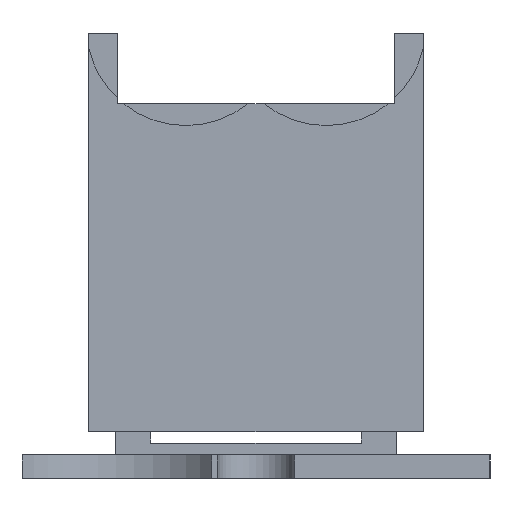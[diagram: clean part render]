
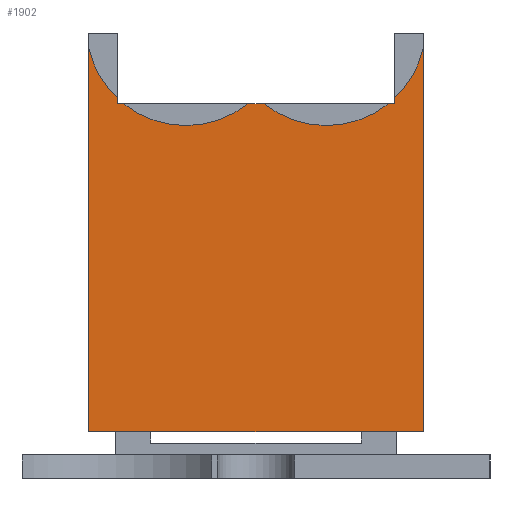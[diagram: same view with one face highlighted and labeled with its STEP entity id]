
A CAD part, left-side view. The second image highlights one B-rep face of the part: STEP entity #1902.
In plain terms, the highlighted planar face has unit normal (-1, 0, 0).
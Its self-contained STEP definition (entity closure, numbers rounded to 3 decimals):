
#1520 = VERTEX_POINT('',#1521);
#1521 = CARTESIAN_POINT('',(55.,14.3,4.));
#1529 = EDGE_CURVE('',#1530,#1520,#1532,.T.);
#1530 = VERTEX_POINT('',#1531);
#1531 = CARTESIAN_POINT('',(55.,-14.3,4.));
#1532 = LINE('',#1533,#1534);
#1533 = CARTESIAN_POINT('',(55.,-14.3,4.));
#1534 = VECTOR('',#1535,1.);
#1535 = DIRECTION('',(0.,1.,0.));
#1760 = EDGE_CURVE('',#1520,#1761,#1763,.T.);
#1761 = VERTEX_POINT('',#1762);
#1762 = CARTESIAN_POINT('',(55.,14.3,36.817));
#1763 = LINE('',#1764,#1765);
#1764 = CARTESIAN_POINT('',(55.,14.3,4.));
#1765 = VECTOR('',#1766,1.);
#1766 = DIRECTION('',(0.,0.,1.));
#1867 = EDGE_CURVE('',#1530,#1868,#1870,.T.);
#1868 = VERTEX_POINT('',#1869);
#1869 = CARTESIAN_POINT('',(55.,-14.3,36.817));
#1870 = LINE('',#1871,#1872);
#1871 = CARTESIAN_POINT('',(55.,-14.3,4.));
#1872 = VECTOR('',#1873,1.);
#1873 = DIRECTION('',(0.,0.,1.));
#1902 = ADVANCED_FACE('',(#1903),#1982,.F.);
#1903 = FACE_BOUND('',#1904,.F.);
#1904 = EDGE_LOOP('',(#1905,#1914,#1915,#1916,#1917,#1926,#1934,#1942,
    #1951,#1959,#1968,#1976));
#1905 = ORIENTED_EDGE('',*,*,#1906,.F.);
#1906 = EDGE_CURVE('',#1868,#1907,#1909,.T.);
#1907 = VERTEX_POINT('',#1908);
#1908 = CARTESIAN_POINT('',(55.,-11.8,32.436));
#1909 = CIRCLE('',#1910,8.5);
#1910 = AXIS2_PLACEMENT_3D('',#1911,#1912,#1913);
#1911 = CARTESIAN_POINT('',(55.,-6.,38.65));
#1912 = DIRECTION('',(1.,0.,-0.));
#1913 = DIRECTION('',(0.,0.,1.));
#1914 = ORIENTED_EDGE('',*,*,#1867,.F.);
#1915 = ORIENTED_EDGE('',*,*,#1529,.T.);
#1916 = ORIENTED_EDGE('',*,*,#1760,.T.);
#1917 = ORIENTED_EDGE('',*,*,#1918,.F.);
#1918 = EDGE_CURVE('',#1919,#1761,#1921,.T.);
#1919 = VERTEX_POINT('',#1920);
#1920 = CARTESIAN_POINT('',(55.,11.8,32.436));
#1921 = CIRCLE('',#1922,8.5);
#1922 = AXIS2_PLACEMENT_3D('',#1923,#1924,#1925);
#1923 = CARTESIAN_POINT('',(55.,6.,38.65));
#1924 = DIRECTION('',(1.,0.,-0.));
#1925 = DIRECTION('',(0.,0.,1.));
#1926 = ORIENTED_EDGE('',*,*,#1927,.F.);
#1927 = EDGE_CURVE('',#1928,#1919,#1930,.T.);
#1928 = VERTEX_POINT('',#1929);
#1929 = CARTESIAN_POINT('',(55.,11.8,32.));
#1930 = LINE('',#1931,#1932);
#1931 = CARTESIAN_POINT('',(55.,11.8,18.));
#1932 = VECTOR('',#1933,1.);
#1933 = DIRECTION('',(0.,0.,1.));
#1934 = ORIENTED_EDGE('',*,*,#1935,.T.);
#1935 = EDGE_CURVE('',#1928,#1936,#1938,.T.);
#1936 = VERTEX_POINT('',#1937);
#1937 = CARTESIAN_POINT('',(55.,11.294,32.));
#1938 = LINE('',#1939,#1940);
#1939 = CARTESIAN_POINT('',(55.,-13.05,32.));
#1940 = VECTOR('',#1941,1.);
#1941 = DIRECTION('',(0.,-1.,0.));
#1942 = ORIENTED_EDGE('',*,*,#1943,.F.);
#1943 = EDGE_CURVE('',#1944,#1936,#1946,.T.);
#1944 = VERTEX_POINT('',#1945);
#1945 = CARTESIAN_POINT('',(55.,0.706,32.));
#1946 = CIRCLE('',#1947,8.5);
#1947 = AXIS2_PLACEMENT_3D('',#1948,#1949,#1950);
#1948 = CARTESIAN_POINT('',(55.,6.,38.65));
#1949 = DIRECTION('',(1.,0.,-0.));
#1950 = DIRECTION('',(0.,0.,1.));
#1951 = ORIENTED_EDGE('',*,*,#1952,.T.);
#1952 = EDGE_CURVE('',#1944,#1953,#1955,.T.);
#1953 = VERTEX_POINT('',#1954);
#1954 = CARTESIAN_POINT('',(55.,-0.706,32.));
#1955 = LINE('',#1956,#1957);
#1956 = CARTESIAN_POINT('',(55.,-13.05,32.));
#1957 = VECTOR('',#1958,1.);
#1958 = DIRECTION('',(0.,-1.,0.));
#1959 = ORIENTED_EDGE('',*,*,#1960,.F.);
#1960 = EDGE_CURVE('',#1961,#1953,#1963,.T.);
#1961 = VERTEX_POINT('',#1962);
#1962 = CARTESIAN_POINT('',(55.,-11.294,32.));
#1963 = CIRCLE('',#1964,8.5);
#1964 = AXIS2_PLACEMENT_3D('',#1965,#1966,#1967);
#1965 = CARTESIAN_POINT('',(55.,-6.,38.65));
#1966 = DIRECTION('',(1.,0.,-0.));
#1967 = DIRECTION('',(0.,0.,1.));
#1968 = ORIENTED_EDGE('',*,*,#1969,.T.);
#1969 = EDGE_CURVE('',#1961,#1970,#1972,.T.);
#1970 = VERTEX_POINT('',#1971);
#1971 = CARTESIAN_POINT('',(55.,-11.8,32.));
#1972 = LINE('',#1973,#1974);
#1973 = CARTESIAN_POINT('',(55.,-13.05,32.));
#1974 = VECTOR('',#1975,1.);
#1975 = DIRECTION('',(0.,-1.,0.));
#1976 = ORIENTED_EDGE('',*,*,#1977,.T.);
#1977 = EDGE_CURVE('',#1970,#1907,#1978,.T.);
#1978 = LINE('',#1979,#1980);
#1979 = CARTESIAN_POINT('',(55.,-11.8,18.));
#1980 = VECTOR('',#1981,1.);
#1981 = DIRECTION('',(0.,0.,1.));
#1982 = PLANE('',#1983);
#1983 = AXIS2_PLACEMENT_3D('',#1984,#1985,#1986);
#1984 = CARTESIAN_POINT('',(55.,-14.3,4.));
#1985 = DIRECTION('',(1.,0.,0.));
#1986 = DIRECTION('',(0.,0.,1.));
